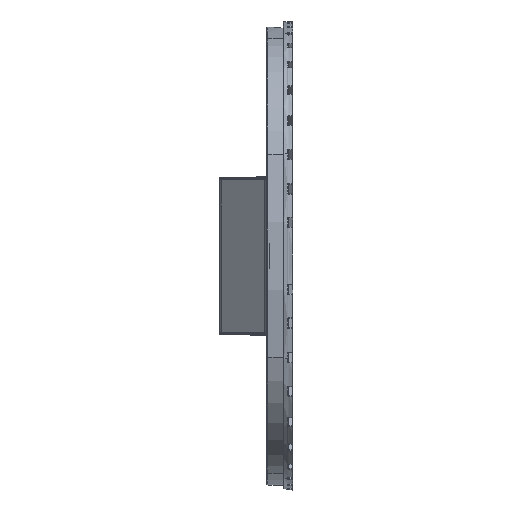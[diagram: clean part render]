
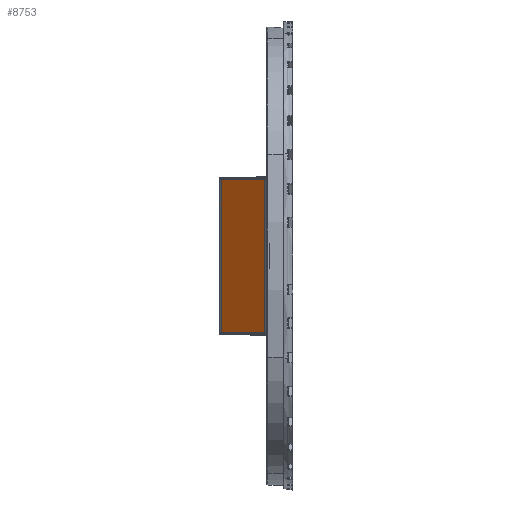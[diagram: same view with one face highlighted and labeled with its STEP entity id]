
A CAD part, left-side view. The second image highlights one B-rep face of the part: STEP entity #8753.
In plain terms, the highlighted planar face has unit normal (-0.766, 0.643, 0).
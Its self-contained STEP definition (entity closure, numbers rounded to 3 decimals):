
#1699 = ORIENTED_EDGE ( 'NONE', *, *, #54551, .T. ) ;
#3312 = VERTEX_POINT ( 'NONE', #29778 ) ;
#4932 = DIRECTION ( 'NONE',  ( 0., 0., 1. ) ) ;
#6004 = LINE ( 'NONE', #44117, #19089 ) ;
#6974 = EDGE_CURVE ( 'NONE', #3312, #30891, #6004, .T. ) ;
#7956 = CARTESIAN_POINT ( 'NONE',  ( 118.221, 152.797, 242.663 ) ) ;
#8753 = ADVANCED_FACE ( 'NONE', ( #28662 ), #58170, .T. ) ;
#12966 = CARTESIAN_POINT ( 'NONE',  ( 133.505, 171.011, 242.345 ) ) ;
#16477 = LINE ( 'NONE', #23717, #42718 ) ;
#17042 = VERTEX_POINT ( 'NONE', #46434 ) ;
#18174 = CARTESIAN_POINT ( 'NONE',  ( 133.812, 171.377, 178.322 ) ) ;
#18951 = EDGE_LOOP ( 'NONE', ( #1699, #37334, #64604, #41466 ) ) ;
#19089 = VECTOR ( 'NONE', #4932, 1000. ) ;
#19219 = CARTESIAN_POINT ( 'NONE',  ( 134.254, 171.904, 126.908 ) ) ;
#23717 = CARTESIAN_POINT ( 'NONE',  ( 135.246, 173.086, 242.309 ) ) ;
#23791 = DIRECTION ( 'NONE',  ( -0.643, -0.766, -0.013 ) ) ;
#23912 = LINE ( 'NONE', #18174, #65114 ) ;
#24826 = DIRECTION ( 'NONE',  ( -0.766, 0.643, 0. ) ) ;
#28662 = FACE_OUTER_BOUND ( 'NONE', #18951, .T. ) ;
#29778 = CARTESIAN_POINT ( 'NONE',  ( 118.221, 152.797, 177.997 ) ) ;
#30891 = VERTEX_POINT ( 'NONE', #7956 ) ;
#31042 = LINE ( 'NONE', #47470, #57329 ) ;
#37334 = ORIENTED_EDGE ( 'NONE', *, *, #45462, .T. ) ;
#41466 = ORIENTED_EDGE ( 'NONE', *, *, #6974, .T. ) ;
#42718 = VECTOR ( 'NONE', #57301, 1000. ) ;
#44117 = CARTESIAN_POINT ( 'NONE',  ( 118.221, 152.797, 243.173 ) ) ;
#45462 = EDGE_CURVE ( 'NONE', #52077, #17042, #31042, .T. ) ;
#45685 = AXIS2_PLACEMENT_3D ( 'NONE', #19219, #24826, #64023 ) ;
#46434 = CARTESIAN_POINT ( 'NONE',  ( 133.505, 171.011, 178.315 ) ) ;
#47470 = CARTESIAN_POINT ( 'NONE',  ( 133.505, 171.011, 126.908 ) ) ;
#52077 = VERTEX_POINT ( 'NONE', #12966 ) ;
#54551 = EDGE_CURVE ( 'NONE', #30891, #52077, #16477, .T. ) ;
#57301 = DIRECTION ( 'NONE',  ( 0.643, 0.766, -0.013 ) ) ;
#57329 = VECTOR ( 'NONE', #69771, 1000. ) ;
#58170 = PLANE ( 'NONE',  #45685 ) ;
#64023 = DIRECTION ( 'NONE',  ( -0.643, -0.766, 0. ) ) ;
#64604 = ORIENTED_EDGE ( 'NONE', *, *, #69499, .T. ) ;
#65114 = VECTOR ( 'NONE', #23791, 1000. ) ;
#69499 = EDGE_CURVE ( 'NONE', #17042, #3312, #23912, .T. ) ;
#69771 = DIRECTION ( 'NONE',  ( 0., 0., -1. ) ) ;
